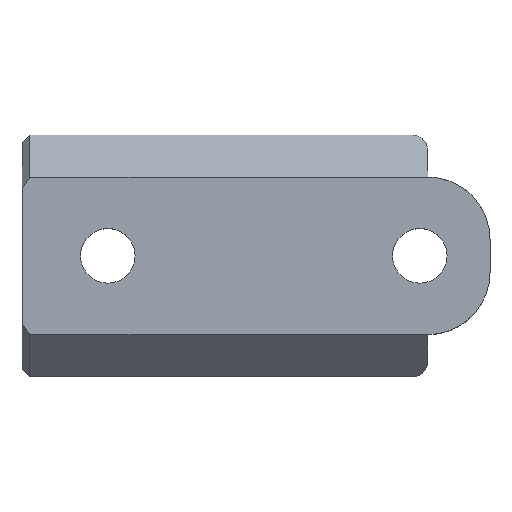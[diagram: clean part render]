
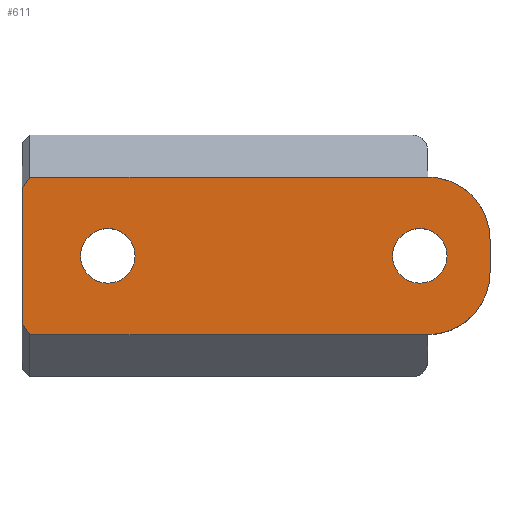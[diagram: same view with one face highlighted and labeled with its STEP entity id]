
A CAD part, top view. The second image highlights one B-rep face of the part: STEP entity #611.
In plain terms, the highlighted planar face has unit normal (0, 0, 1).
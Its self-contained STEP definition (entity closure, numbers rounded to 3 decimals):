
#26=CIRCLE('',#661,1.75);
#27=CIRCLE('',#662,1.75);
#28=CIRCLE('',#663,4.);
#29=CIRCLE('',#664,4.);
#50=ORIENTED_EDGE('',*,*,#219,.T.);
#51=ORIENTED_EDGE('',*,*,#220,.T.);
#52=ORIENTED_EDGE('',*,*,#217,.F.);
#53=ORIENTED_EDGE('',*,*,#221,.F.);
#54=ORIENTED_EDGE('',*,*,#222,.T.);
#55=ORIENTED_EDGE('',*,*,#223,.F.);
#56=ORIENTED_EDGE('',*,*,#224,.T.);
#57=ORIENTED_EDGE('',*,*,#225,.F.);
#58=ORIENTED_EDGE('',*,*,#226,.T.);
#59=ORIENTED_EDGE('',*,*,#227,.F.);
#217=EDGE_CURVE('',#301,#302,#359,.T.);
#219=EDGE_CURVE('',#303,#303,#26,.T.);
#220=EDGE_CURVE('',#304,#304,#27,.T.);
#221=EDGE_CURVE('',#305,#301,#361,.T.);
#222=EDGE_CURVE('',#305,#306,#28,.F.);
#223=EDGE_CURVE('',#307,#306,#362,.T.);
#224=EDGE_CURVE('',#307,#308,#29,.F.);
#225=EDGE_CURVE('',#309,#308,#363,.T.);
#226=EDGE_CURVE('',#309,#310,#364,.T.);
#227=EDGE_CURVE('',#302,#310,#365,.T.);
#301=VERTEX_POINT('',#904);
#302=VERTEX_POINT('',#906);
#303=VERTEX_POINT('',#910);
#304=VERTEX_POINT('',#912);
#305=VERTEX_POINT('',#914);
#306=VERTEX_POINT('',#916);
#307=VERTEX_POINT('',#918);
#308=VERTEX_POINT('',#920);
#309=VERTEX_POINT('',#922);
#310=VERTEX_POINT('',#924);
#359=LINE('',#905,#429);
#361=LINE('',#913,#431);
#362=LINE('',#917,#432);
#363=LINE('',#921,#433);
#364=LINE('',#923,#434);
#365=LINE('',#925,#435);
#429=VECTOR('',#725,1000.);
#431=VECTOR('',#733,1000.);
#432=VECTOR('',#736,1000.);
#433=VECTOR('',#739,1000.);
#434=VECTOR('',#740,1000.);
#435=VECTOR('',#741,1000.);
#495=EDGE_LOOP('',(#50));
#496=EDGE_LOOP('',(#51));
#497=EDGE_LOOP('',(#52,#53,#54,#55,#56,#57,#58,#59));
#539=FACE_BOUND('',#495,.T.);
#540=FACE_BOUND('',#496,.T.);
#541=FACE_BOUND('',#497,.T.);
#583=PLANE('',#660);
#611=ADVANCED_FACE('',(#539,#540,#541),#583,.F.);
#660=AXIS2_PLACEMENT_3D('',#908,#727,#728);
#661=AXIS2_PLACEMENT_3D('',#909,#729,#730);
#662=AXIS2_PLACEMENT_3D('',#911,#731,#732);
#663=AXIS2_PLACEMENT_3D('',#915,#734,#735);
#664=AXIS2_PLACEMENT_3D('',#919,#737,#738);
#725=DIRECTION('',(-0.577,0.816,0.));
#727=DIRECTION('',(0.,0.,-1.));
#728=DIRECTION('',(-1.,0.,0.));
#729=DIRECTION('',(0.,0.,-1.));
#730=DIRECTION('',(0.,-1.,0.));
#731=DIRECTION('',(0.,0.,-1.));
#732=DIRECTION('',(0.,-1.,0.));
#733=DIRECTION('',(-1.,0.,0.));
#734=DIRECTION('',(0.,0.,-1.));
#735=DIRECTION('',(-1.,0.,0.));
#736=DIRECTION('',(0.,-1.,0.));
#737=DIRECTION('',(0.,0.,-1.));
#738=DIRECTION('',(-1.,0.,0.));
#739=DIRECTION('',(1.,0.,0.));
#740=DIRECTION('',(-0.577,-0.816,0.));
#741=DIRECTION('',(0.,1.,0.));
#904=CARTESIAN_POINT('',(-12.5,-5.05,1.716));
#905=CARTESIAN_POINT('',(-12.5,-5.05,1.716));
#906=CARTESIAN_POINT('',(-13.,-4.343,1.716));
#908=CARTESIAN_POINT('',(0.,0.,1.716));
#909=CARTESIAN_POINT('',(-7.5,0.,1.716));
#910=CARTESIAN_POINT('',(-7.5,-1.75,1.716));
#911=CARTESIAN_POINT('',(12.5,0.,1.716));
#912=CARTESIAN_POINT('',(12.5,-1.75,1.716));
#913=CARTESIAN_POINT('',(17.,-5.05,1.716));
#914=CARTESIAN_POINT('',(13.,-5.05,1.716));
#915=CARTESIAN_POINT('',(13.,-1.05,1.716));
#916=CARTESIAN_POINT('',(17.,-1.05,1.716));
#917=CARTESIAN_POINT('',(17.,5.05,1.716));
#918=CARTESIAN_POINT('',(17.,1.05,1.716));
#919=CARTESIAN_POINT('',(13.,1.05,1.716));
#920=CARTESIAN_POINT('',(13.,5.05,1.716));
#921=CARTESIAN_POINT('',(13.,5.05,1.716));
#922=CARTESIAN_POINT('',(-12.5,5.05,1.716));
#923=CARTESIAN_POINT('',(-12.5,5.05,1.716));
#924=CARTESIAN_POINT('',(-13.,4.343,1.716));
#925=CARTESIAN_POINT('',(-13.,5.05,1.716));
